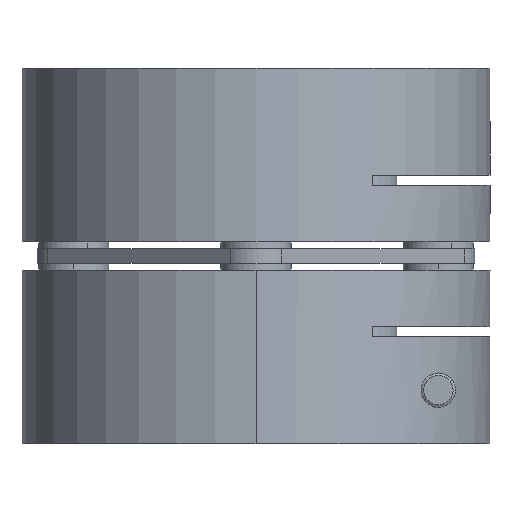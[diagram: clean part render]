
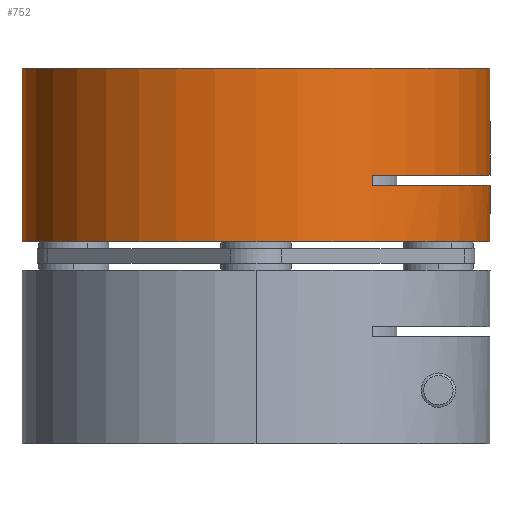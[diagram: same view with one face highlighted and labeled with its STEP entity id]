
A CAD part, front view. The second image highlights one B-rep face of the part: STEP entity #752.
In plain terms, the highlighted cylindrical face has radius 34 mm (diameter 68 mm), a partial arc.
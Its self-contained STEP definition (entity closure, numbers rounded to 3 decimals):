
#67 = EDGE_CURVE ( 'NONE', #1696, #805, #9753, .T. ) ;
#113 = EDGE_CURVE ( 'NONE', #6060, #9125, #4260, .T. ) ;
#115 = CIRCLE ( 'NONE', #8240, 34. ) ;
#468 = DIRECTION ( 'NONE',  ( 0., 0., -1. ) ) ;
#483 = DIRECTION ( 'NONE',  ( 0., 0., -1. ) ) ;
#719 = VERTEX_POINT ( 'NONE', #4435 ) ;
#752 = ADVANCED_FACE ( 'NONE', ( #7572 ), #9034, .T. ) ;
#805 = VERTEX_POINT ( 'NONE', #7845 ) ;
#916 = AXIS2_PLACEMENT_3D ( 'NONE', #3544, #10196, #13248 ) ;
#1064 = AXIS2_PLACEMENT_3D ( 'NONE', #3278, #10948, #9735 ) ;
#1140 = ORIENTED_EDGE ( 'NONE', *, *, #113, .T. ) ;
#1696 = VERTEX_POINT ( 'NONE', #6615 ) ;
#1744 = CARTESIAN_POINT ( 'NONE',  ( 36.405, 33.451, 103.515 ) ) ;
#1893 = DIRECTION ( 'NONE',  ( 0., 0., -1. ) ) ;
#2360 = CARTESIAN_POINT ( 'NONE',  ( 19.391, 3.998, 103.515 ) ) ;
#2923 = EDGE_CURVE ( 'NONE', #4448, #4925, #5871, .T. ) ;
#3022 = LINE ( 'NONE', #3387, #5428 ) ;
#3278 = CARTESIAN_POINT ( 'NONE',  ( 2.405, 33.451, 95.315 ) ) ;
#3387 = CARTESIAN_POINT ( 'NONE',  ( -31.595, 33.451, 120.515 ) ) ;
#3544 = CARTESIAN_POINT ( 'NONE',  ( 2.405, 33.451, 120.515 ) ) ;
#3852 = DIRECTION ( 'NONE',  ( -1., 0., 0. ) ) ;
#3868 = EDGE_CURVE ( 'NONE', #10688, #719, #115, .T. ) ;
#3902 = CARTESIAN_POINT ( 'NONE',  ( 2.405, 33.451, 105.015 ) ) ;
#4216 = LINE ( 'NONE', #13308, #12141 ) ;
#4260 = CIRCLE ( 'NONE', #1064, 34. ) ;
#4435 = CARTESIAN_POINT ( 'NONE',  ( 19.391, 3.998, 105.015 ) ) ;
#4448 = VERTEX_POINT ( 'NONE', #1744 ) ;
#4606 = CARTESIAN_POINT ( 'NONE',  ( 19.391, 3.998, 105.015 ) ) ;
#4925 = VERTEX_POINT ( 'NONE', #2360 ) ;
#5428 = VECTOR ( 'NONE', #10604, 1000. ) ;
#5504 = ORIENTED_EDGE ( 'NONE', *, *, #7462, .F. ) ;
#5670 = ORIENTED_EDGE ( 'NONE', *, *, #7316, .F. ) ;
#5871 = CIRCLE ( 'NONE', #8787, 34. ) ;
#6060 = VERTEX_POINT ( 'NONE', #12396 ) ;
#6151 = CARTESIAN_POINT ( 'NONE',  ( 36.405, 33.451, 95.315 ) ) ;
#6615 = CARTESIAN_POINT ( 'NONE',  ( -31.595, 33.451, 120.515 ) ) ;
#7138 = EDGE_LOOP ( 'NONE', ( #5504, #8419, #10352, #1140, #9473, #12103, #5670, #9538 ) ) ;
#7316 = EDGE_CURVE ( 'NONE', #719, #4925, #10527, .T. ) ;
#7462 = EDGE_CURVE ( 'NONE', #805, #10688, #4216, .T. ) ;
#7572 = FACE_OUTER_BOUND ( 'NONE', #7138, .T. ) ;
#7777 = VECTOR ( 'NONE', #483, 1000. ) ;
#7845 = CARTESIAN_POINT ( 'NONE',  ( 36.405, 33.451, 120.515 ) ) ;
#8134 = DIRECTION ( 'NONE',  ( -1., 0., 0. ) ) ;
#8240 = AXIS2_PLACEMENT_3D ( 'NONE', #3902, #10884, #3852 ) ;
#8419 = ORIENTED_EDGE ( 'NONE', *, *, #67, .F. ) ;
#8770 = DIRECTION ( 'NONE',  ( 0., 0., -1. ) ) ;
#8787 = AXIS2_PLACEMENT_3D ( 'NONE', #8816, #8770, #8134 ) ;
#8816 = CARTESIAN_POINT ( 'NONE',  ( 2.405, 33.451, 103.515 ) ) ;
#9034 = CYLINDRICAL_SURFACE ( 'NONE', #916, 34. ) ;
#9125 = VERTEX_POINT ( 'NONE', #6151 ) ;
#9213 = EDGE_CURVE ( 'NONE', #1696, #6060, #3022, .T. ) ;
#9473 = ORIENTED_EDGE ( 'NONE', *, *, #11296, .F. ) ;
#9538 = ORIENTED_EDGE ( 'NONE', *, *, #3868, .F. ) ;
#9735 = DIRECTION ( 'NONE',  ( 1., 0., 0. ) ) ;
#9753 = CIRCLE ( 'NONE', #11724, 34. ) ;
#10196 = DIRECTION ( 'NONE',  ( 0., 0., -1. ) ) ;
#10352 = ORIENTED_EDGE ( 'NONE', *, *, #9213, .T. ) ;
#10391 = VECTOR ( 'NONE', #468, 1000. ) ;
#10527 = LINE ( 'NONE', #4606, #7777 ) ;
#10604 = DIRECTION ( 'NONE',  ( 0., 0., -1. ) ) ;
#10688 = VERTEX_POINT ( 'NONE', #11697 ) ;
#10736 = CARTESIAN_POINT ( 'NONE',  ( 36.405, 33.451, 120.515 ) ) ;
#10884 = DIRECTION ( 'NONE',  ( 0., 0., -1. ) ) ;
#10948 = DIRECTION ( 'NONE',  ( 0., 0., 1. ) ) ;
#11296 = EDGE_CURVE ( 'NONE', #4448, #9125, #13143, .T. ) ;
#11697 = CARTESIAN_POINT ( 'NONE',  ( 36.405, 33.451, 105.015 ) ) ;
#11724 = AXIS2_PLACEMENT_3D ( 'NONE', #11995, #12834, #13027 ) ;
#11995 = CARTESIAN_POINT ( 'NONE',  ( 2.405, 33.451, 120.515 ) ) ;
#12103 = ORIENTED_EDGE ( 'NONE', *, *, #2923, .T. ) ;
#12141 = VECTOR ( 'NONE', #1893, 1000. ) ;
#12396 = CARTESIAN_POINT ( 'NONE',  ( -31.595, 33.451, 95.315 ) ) ;
#12834 = DIRECTION ( 'NONE',  ( 0., 0., 1. ) ) ;
#13027 = DIRECTION ( 'NONE',  ( 1., 0., 0. ) ) ;
#13143 = LINE ( 'NONE', #10736, #10391 ) ;
#13248 = DIRECTION ( 'NONE',  ( -1., 0., 0. ) ) ;
#13308 = CARTESIAN_POINT ( 'NONE',  ( 36.405, 33.451, 120.515 ) ) ;
